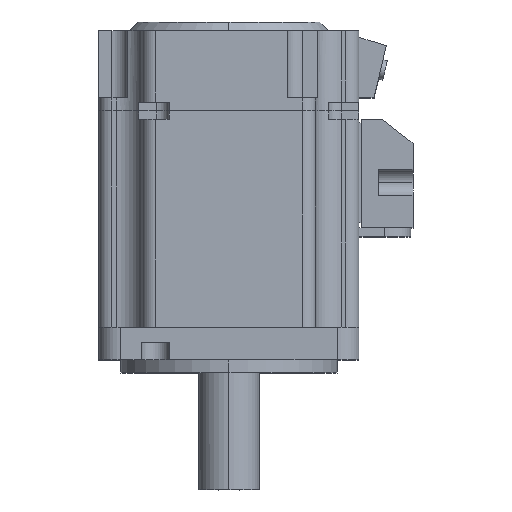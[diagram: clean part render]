
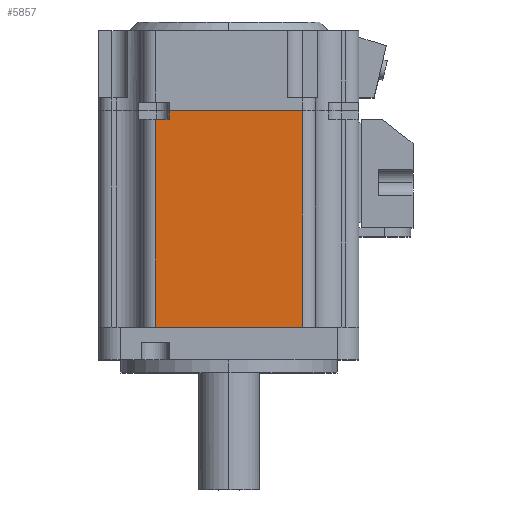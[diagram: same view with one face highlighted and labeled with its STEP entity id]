
A CAD part, top view. The second image highlights one B-rep face of the part: STEP entity #5857.
In plain terms, the highlighted planar face has unit normal (0, 0, 1) as drawn and (0, 0, -1) by its records, which use the part's own axes.
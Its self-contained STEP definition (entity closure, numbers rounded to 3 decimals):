
#388 = PLANE ( 'NONE',  #416 ) ;
#416 = AXIS2_PLACEMENT_3D ( 'NONE', #5302, #1154, #6505 ) ;
#529 = VECTOR ( 'NONE', #2446, 1000. ) ;
#568 = EDGE_CURVE ( 'NONE', #5992, #1122, #4231, .T. ) ;
#591 = VERTEX_POINT ( 'NONE', #1174 ) ;
#652 = ORIENTED_EDGE ( 'NONE', *, *, #7543, .T. ) ;
#698 = EDGE_CURVE ( 'NONE', #4908, #5992, #3416, .T. ) ;
#729 = LINE ( 'NONE', #5466, #5407 ) ;
#956 = DIRECTION ( 'NONE',  ( -1., 0., 0. ) ) ;
#1122 = VERTEX_POINT ( 'NONE', #5874 ) ;
#1154 = DIRECTION ( 'NONE',  ( 0., 0., 1. ) ) ;
#1174 = CARTESIAN_POINT ( 'NONE',  ( 13.804, 55.5, -30. ) ) ;
#1201 = LINE ( 'NONE', #3626, #7216 ) ;
#1396 = LINE ( 'NONE', #3814, #2975 ) ;
#1550 = DIRECTION ( 'NONE',  ( -1., 0., 0. ) ) ;
#1838 = EDGE_CURVE ( 'NONE', #1977, #1122, #1396, .T. ) ;
#1928 = ORIENTED_EDGE ( 'NONE', *, *, #698, .F. ) ;
#1977 = VERTEX_POINT ( 'NONE', #5858 ) ;
#1988 = EDGE_CURVE ( 'NONE', #7735, #591, #6993, .T. ) ;
#2067 = DIRECTION ( 'NONE',  ( -1., 0., 0. ) ) ;
#2432 = DIRECTION ( 'NONE',  ( 0., 1., 0. ) ) ;
#2446 = DIRECTION ( 'NONE',  ( 0., -1., 0. ) ) ;
#2676 = CARTESIAN_POINT ( 'NONE',  ( 17., 55.5, -30. ) ) ;
#2975 = VECTOR ( 'NONE', #2067, 1000. ) ;
#3338 = VECTOR ( 'NONE', #1550, 1000. ) ;
#3416 = LINE ( 'NONE', #7580, #3338 ) ;
#3626 = CARTESIAN_POINT ( 'NONE',  ( 13.804, 55.5, -30. ) ) ;
#3734 = CARTESIAN_POINT ( 'NONE',  ( -17., 57.5, -30. ) ) ;
#3814 = CARTESIAN_POINT ( 'NONE',  ( 17., 7.5, -30. ) ) ;
#4092 = EDGE_CURVE ( 'NONE', #591, #4908, #1201, .T. ) ;
#4231 = LINE ( 'NONE', #4275, #529 ) ;
#4275 = CARTESIAN_POINT ( 'NONE',  ( -17., 57.5, -30. ) ) ;
#4850 = ORIENTED_EDGE ( 'NONE', *, *, #568, .F. ) ;
#4908 = VERTEX_POINT ( 'NONE', #7238 ) ;
#4975 = VECTOR ( 'NONE', #956, 1000. ) ;
#5302 = CARTESIAN_POINT ( 'NONE',  ( 17., 57.5, -30. ) ) ;
#5407 = VECTOR ( 'NONE', #7321, 1000. ) ;
#5466 = CARTESIAN_POINT ( 'NONE',  ( 17., 57.5, -30. ) ) ;
#5857 = ADVANCED_FACE ( 'NONE', ( #7663 ), #388, .F. ) ;
#5858 = CARTESIAN_POINT ( 'NONE',  ( 17., 7.5, -30. ) ) ;
#5874 = CARTESIAN_POINT ( 'NONE',  ( -17., 7.5, -30. ) ) ;
#5956 = ORIENTED_EDGE ( 'NONE', *, *, #1838, .T. ) ;
#5992 = VERTEX_POINT ( 'NONE', #3734 ) ;
#6375 = CARTESIAN_POINT ( 'NONE',  ( 17., 55.5, -30. ) ) ;
#6505 = DIRECTION ( 'NONE',  ( 1., 0., 0. ) ) ;
#6511 = ORIENTED_EDGE ( 'NONE', *, *, #1988, .F. ) ;
#6875 = ORIENTED_EDGE ( 'NONE', *, *, #4092, .F. ) ;
#6947 = EDGE_LOOP ( 'NONE', ( #1928, #6875, #6511, #652, #5956, #4850 ) ) ;
#6993 = LINE ( 'NONE', #6375, #4975 ) ;
#7216 = VECTOR ( 'NONE', #2432, 1000. ) ;
#7238 = CARTESIAN_POINT ( 'NONE',  ( 13.804, 57.5, -30. ) ) ;
#7321 = DIRECTION ( 'NONE',  ( 0., -1., 0. ) ) ;
#7543 = EDGE_CURVE ( 'NONE', #7735, #1977, #729, .T. ) ;
#7580 = CARTESIAN_POINT ( 'NONE',  ( 17., 57.5, -30. ) ) ;
#7663 = FACE_OUTER_BOUND ( 'NONE', #6947, .T. ) ;
#7735 = VERTEX_POINT ( 'NONE', #2676 ) ;
